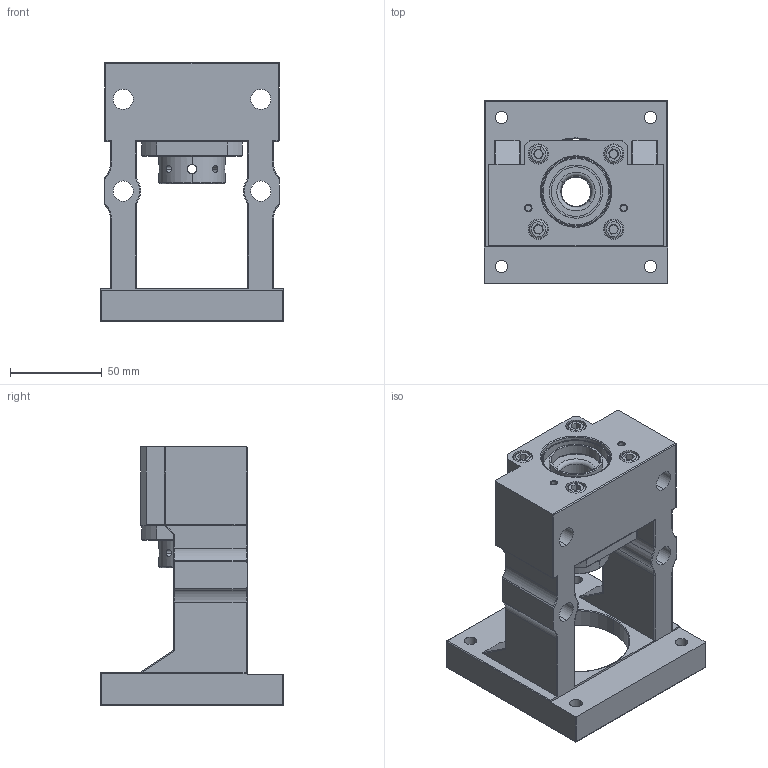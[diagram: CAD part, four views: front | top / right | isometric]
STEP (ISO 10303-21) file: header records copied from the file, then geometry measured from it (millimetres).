
FILE_DESCRIPTION (( 'STEP AP203' ), '1' );
FILE_NAME ('MBCS17-Y.STEP', '2017-12-28T07:50:08', ( '' ), ( '' ), 'SwSTEP 2.0', 'SolidWorks 2017', '' );
FILE_SCHEMA (( 'CONFIG_CONTROL_DESIGN' ));
Length unit declared in the file: millimetre
Products named in the file (1): MBCS17-Y
Bounding box: 100 x 100 x 141 mm (x, y, z)
Surface area: 87407.8 mm2 (no closed solid volume)
Topology: 0 solids, 16 shells, 356 faces, 906 edges, 558 vertices
Faces by surface type: cylinder 157, plane 93, cone 50, torus 48, sphere 8
Entity records: 11500 total; most frequent: CARTESIAN_POINT 2741, DIRECTION 1954, ORIENTED_EDGE 1666, EDGE_CURVE 890, AXIS2_PLACEMENT_3D 777, VERTEX_POINT 558, EDGE_LOOP 422, CIRCLE 420
